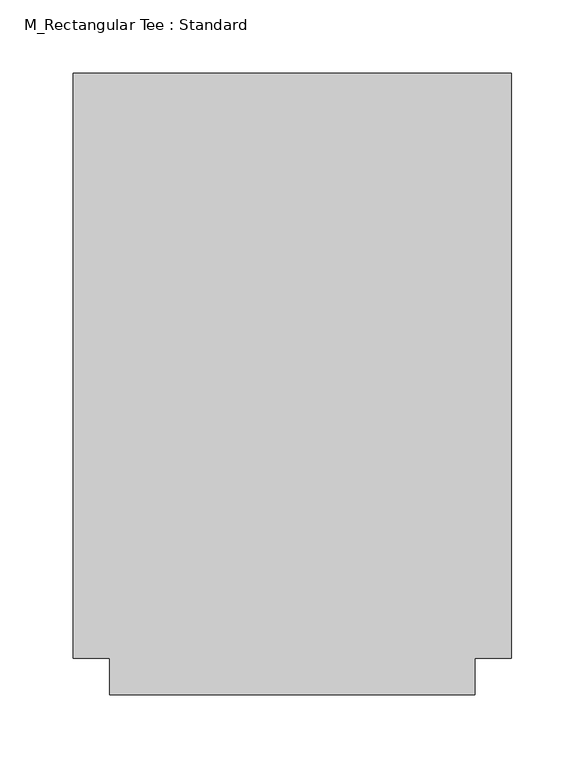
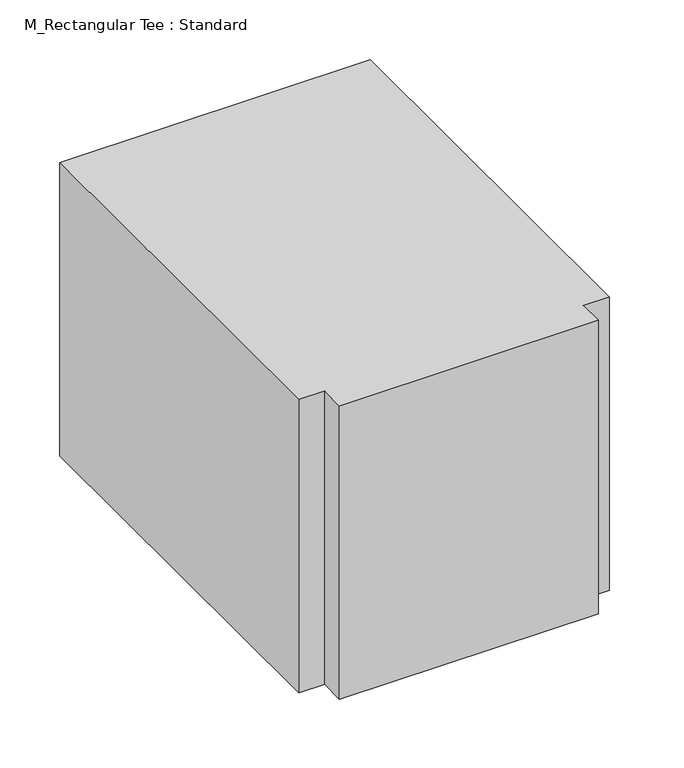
"""IFC4 building model written with IfcOpenShell, lengths in millimetres: duct fitting geometry, M_Rectangular Tee : Standard."""

import ifcopenshell
import ifcopenshell.guid

model = None  # the IFC model being written
_history = None  # IfcOwnerHistory: only IFC2X3 demands one
_inside = {}  # id of a spatial element -> (the spatial element, [elements in it])
_under = {}  # id of a project, library or spatial element -> (it, [spatial elements below it])
_declared = {}  # id of a project -> (the project, [libraries it declares])
_typed = {}  # id of a type object -> (the type object, [elements of that type])
_made_of = {}  # id of a material, layer set ... -> (it, [elements and type objects made of it])


def new_model(schema):
    """Start an empty IFC model of exactly this schema.

    Asked for "IFC4X3", IfcOpenShell would pick the latest addendum, in which some entities
    have other attributes; the version numbers below select the first issue.
    IFC2X3 requires an IfcOwnerHistory on every rooted entity: one is made here for all.
    """
    global model, _history
    if schema == "IFC4X3":
        model = ifcopenshell.file(schema_version=(4, 3, 0, 0))
    else:
        model = ifcopenshell.file(schema=schema)
    _inside.clear()
    _under.clear()
    _declared.clear()
    _typed.clear()
    _made_of.clear()
    _history = None
    if model.schema == "IFC2X3":
        org = make("IfcOrganization", Name="unknown")
        user = make(
            "IfcPersonAndOrganization",
            ThePerson=make("IfcPerson", FamilyName="unknown"),
            TheOrganization=org,
        )
        app = make(
            "IfcApplication",
            ApplicationDeveloper=org,
            Version="unknown",
            ApplicationFullName="unknown",
            ApplicationIdentifier="unknown",
        )
        _history = make(
            "IfcOwnerHistory",
            OwningUser=user,
            OwningApplication=app,
            ChangeAction="ADDED",
            CreationDate=0,
        )
    return model


def make(cls, **values):
    """One entity of the class cls with the attributes given. An attribute that is None is left unset."""
    return model.create_entity(
        cls, **{name: value for name, value in values.items() if value is not None}
    )


def rooted(cls, **values):
    """An entity with a GlobalId (a new one), such as an element, a storey or a relation."""
    return make(cls, GlobalId=ifcopenshell.guid.new(), OwnerHistory=_history, **values)


def si_unit(unit_type, name, prefix=None):
    """IfcSIUnit, for example si_unit("LENGTHUNIT", "METRE", prefix="MILLI")."""
    return make("IfcSIUnit", UnitType=unit_type, Prefix=prefix, Name=name)


def assignment(units):
    """IfcUnitAssignment: the units of a project."""
    return None if units is None else make("IfcUnitAssignment", Units=units)


def point(xyz):
    """IfcCartesianPoint."""
    return None if xyz is None else make("IfcCartesianPoint", Coordinates=xyz)


def direction(xyz):
    """IfcDirection."""
    return None if xyz is None else make("IfcDirection", DirectionRatios=xyz)


def frame(location, z_axis=None, x_axis=None):
    """IfcAxis2Placement3D, a coordinate frame: its origin and axes. An axis left out is left unset."""
    return make(
        "IfcAxis2Placement3D",
        Location=point(location),
        Axis=direction(z_axis),
        RefDirection=direction(x_axis),
    )


def origin():
    """The frame at (0, 0, 0) with its axes left unset."""
    return frame((0.0, 0.0, 0.0))


def place(relative_to, where):
    """IfcLocalPlacement: puts the frame where relative to a parent placement (None: the world)."""
    return make(
        "IfcLocalPlacement", PlacementRelTo=relative_to, RelativePlacement=where
    )


def context(
    kind, dimensions, precision=None, world=None, true_north=None, identifier=None
):
    """IfcGeometricRepresentationContext, for example the 3D "Model" context."""
    return make(
        "IfcGeometricRepresentationContext",
        ContextIdentifier=identifier,
        ContextType=kind,
        CoordinateSpaceDimension=dimensions,
        Precision=precision,
        WorldCoordinateSystem=world,
        TrueNorth=true_north,
    )


def project(units=None, contexts=None):
    """IfcProject with its units and contexts."""
    return rooted(
        "IfcProject",
        Name="project",
        RepresentationContexts=contexts,
        UnitsInContext=assignment(units),
    )


def spatial(cls, under=None, at=None, **own):
    """A site, building, storey or space (cls), placed at a placement, below another one or the project."""
    s = rooted(cls, ObjectPlacement=at, **own)
    if under is not None:
        _under.setdefault(under.id(), (under, []))[1].append(s)
    return s


def polyline(points):
    """IfcPolyline through the points."""
    return make("IfcPolyline", Points=[point(p) for p in points])


def outline(outer, holes=None, kind="AREA"):
    """IfcArbitraryClosedProfileDef: a profile drawn as a closed curve; with holes, ...WithVoids."""
    if holes is None:
        return make("IfcArbitraryClosedProfileDef", ProfileType=kind, OuterCurve=outer)
    return make(
        "IfcArbitraryProfileDefWithVoids",
        ProfileType=kind,
        OuterCurve=outer,
        InnerCurves=holes,
    )


def extrude(swept, where, along, depth):
    """IfcExtrudedAreaSolid: the profile swept, set in the frame where, extruded along a direction by depth."""
    return make(
        "IfcExtrudedAreaSolid",
        SweptArea=swept,
        Position=where,
        ExtrudedDirection=direction(along),
        Depth=depth,
    )


def shape(context_of_items, identifier, shape_type, items):
    """IfcShapeRepresentation: the items that make up one representation, for example the "Body"."""
    return make(
        "IfcShapeRepresentation",
        ContextOfItems=context_of_items,
        RepresentationIdentifier=identifier,
        RepresentationType=shape_type,
        Items=items,
    )


def source(mapping_origin, context_of_items, identifier, shape_type, items):
    """IfcRepresentationMap: a shape defined once, which mapped items show again and again."""
    return make(
        "IfcRepresentationMap",
        MappingOrigin=mapping_origin,
        MappedRepresentation=shape(context_of_items, identifier, shape_type, items),
    )


def transform(
    local_origin,
    x_axis=None,
    y_axis=None,
    z_axis=None,
    scale=None,
    scale2=None,
    scale3=None,
    uniform=True,
):
    """IfcCartesianTransformationOperator3D, or its non-uniform kind. x_axis, y_axis, z_axis: its Axis1, 2, 3."""
    if uniform:
        return make(
            "IfcCartesianTransformationOperator3D",
            Axis1=direction(x_axis),
            Axis2=direction(y_axis),
            LocalOrigin=point(local_origin),
            Scale=scale,
            Axis3=direction(z_axis),
        )
    return make(
        "IfcCartesianTransformationOperator3DnonUniform",
        Axis1=direction(x_axis),
        Axis2=direction(y_axis),
        LocalOrigin=point(local_origin),
        Scale=scale,
        Axis3=direction(z_axis),
        Scale2=scale2,
        Scale3=scale3,
    )


def mapped(mapping_source, mapping_target):
    """IfcMappedItem: shows the shape of a source again, moved by a transform."""
    return make(
        "IfcMappedItem", MappingSource=mapping_source, MappingTarget=mapping_target
    )


def made_of(thing, what):
    """Note that an element or type object is made of a material, layer set ...; save() writes the relation."""
    if what is not None:
        _made_of.setdefault(what.id(), (what, []))[1].append(thing)
    return thing


def element(
    cls,
    number,
    at=None,
    inside=None,
    cuts=None,
    type_object=None,
    material=None,
    context=None,
    identifier="Body",
    shape_type=None,
    held_by="IfcProductDefinitionShape",
    body=None,
    shapes=None,
    **own,
):
    """One element of the class cls, such as IfcWall. Its Tag is "e" and its number.

    at: its placement. inside: the storey or other place that contains it. cuts: it is an
    opening in that element (IfcRelVoidsElement). A single representation is given by context,
    identifier, shape_type and body (its items); several are given by shapes. held_by: the class
    of the entity that holds the representations. save() writes the other relations.
    """
    e = rooted(cls, Tag="e%d" % number, ObjectPlacement=at, **own)
    if body is not None:
        shapes = [shape(context, identifier, shape_type, body)]
    if shapes is not None:
        e.Representation = make(held_by, Representations=shapes)
    if inside is not None:
        _inside.setdefault(inside.id(), (inside, []))[1].append(e)
    if cuts is not None:
        rooted(
            "IfcRelVoidsElement", RelatingBuildingElement=cuts, RelatedOpeningElement=e
        )
    if type_object is not None:
        _typed.setdefault(type_object.id(), (type_object, []))[1].append(e)
    return made_of(e, material)


def aggregate(whole, parts):
    """IfcRelAggregates: a whole, such as a stair, and the parts it consists of."""
    return rooted("IfcRelAggregates", RelatingObject=whole, RelatedObjects=parts)


def save(model, path):
    """Write the relations noted so far, then the file.

    IfcRelAggregates (storeys below a building ...), IfcRelContainedInSpatialStructure (elements
    in a storey), IfcRelDefinesByType, IfcRelAssociatesMaterial and IfcRelDeclares: one each for
    every whole, place, type object, material and project.
    """
    for whole, parts in _under.values():
        aggregate(whole, parts)
    for where, things in _inside.values():
        rooted(
            "IfcRelContainedInSpatialStructure",
            RelatedElements=things,
            RelatingStructure=where,
        )
    for kind, things in _typed.values():
        rooted("IfcRelDefinesByType", RelatedObjects=things, RelatingType=kind)
    for what, things in _made_of.values():
        rooted("IfcRelAssociatesMaterial", RelatedObjects=things, RelatingMaterial=what)
    for by, libraries in _declared.values():
        rooted("IfcRelDeclares", RelatingContext=by, RelatedDefinitions=libraries)
    model.write(path)


def m_rectangular_tee_standard_0bd60039(model_context):
    return source(origin(), model_context, "Body", "SweptSolid", [
        extrude(outline(polyline([(-150.0, -200.0), (-150.0, 200.0), (150.0, 200.0), (150.0, -200.0), (125.0, -200.0), (125.0, -225.0), (-125.0, -225.0), (-125.0, -200.0), (-150.0, -200.0)])), frame((0.0, 0.0, -150.0), z_axis=(0.0, 0.0, 1.0), x_axis=(1.0, 0.0, 0.0)), (0.0, 0.0, 1.0), 300.0),
    ])


if __name__ == "__main__":
    model = new_model("IFC4")
    model_context = context("Model", 3, world=origin())
    ifc_project = project(units=[si_unit("LENGTHUNIT", "METRE", prefix="MILLI")], contexts=[model_context])
    site = spatial("IfcSite", under=ifc_project)
    building = spatial("IfcBuilding", under=site)
    placement = place(None, origin())
    m_rectangular_tee_standard_shape = m_rectangular_tee_standard_0bd60039(model_context)
    element("IfcDuctFitting", 1, ObjectType="M_Rectangular Tee : Standard", at=placement, inside=building, context=model_context, shape_type="MappedRepresentation", body=[
        mapped(m_rectangular_tee_standard_shape, transform((0.0, 0.0, 0.0), x_axis=(1.0, 0.0, 0.0), y_axis=(0.0, 1.0, 0.0), z_axis=(0.0, 0.0, 1.0))),
    ])
    save(model, "model.ifc")
